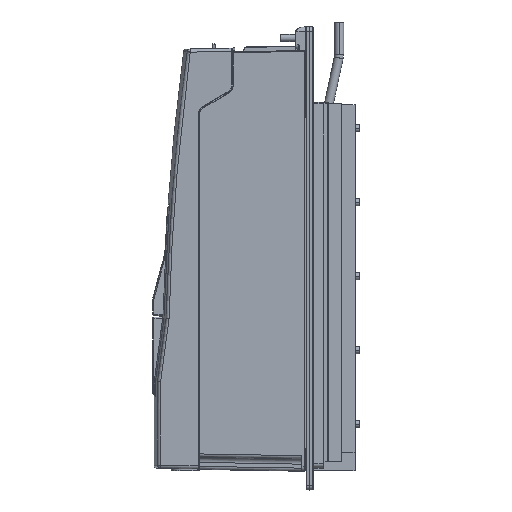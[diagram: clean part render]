
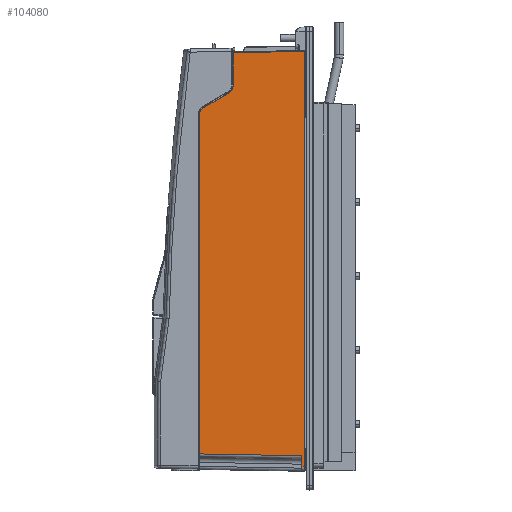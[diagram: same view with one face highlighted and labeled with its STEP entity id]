
A CAD part, left-side view. The second image highlights one B-rep face of the part: STEP entity #104080.
In plain terms, the highlighted planar face has unit normal (-1, 0.018, 0) as drawn and (1, 0.018, 0) by its records, which use the part's own axes.
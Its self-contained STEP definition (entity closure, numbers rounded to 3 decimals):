
#266 = FACE_OUTER_BOUND ( 'NONE', #105729, .T. ) ;
#672 = EDGE_CURVE ( 'NONE', #77806, #105797, #45312, .T. ) ;
#1778 = EDGE_CURVE ( 'NONE', #25256, #24570, #74881, .T. ) ;
#3639 = VECTOR ( 'NONE', #81222, 1000. ) ;
#4059 = CARTESIAN_POINT ( 'NONE',  ( 123.269, 1.704, 465.997 ) ) ;
#4807 = CARTESIAN_POINT ( 'NONE',  ( 121.801, 83.67, 44.693 ) ) ;
#5269 = VERTEX_POINT ( 'NONE', #71429 ) ;
#5949 = LINE ( 'NONE', #29848, #102363 ) ;
#7740 = EDGE_CURVE ( 'NONE', #77806, #5269, #32954, .T. ) ;
#9695 = CARTESIAN_POINT ( 'NONE',  ( 123.21, 5.009, 454.037 ) ) ;
#9732 = ORIENTED_EDGE ( 'NONE', *, *, #106895, .T. ) ;
#9827 = VECTOR ( 'NONE', #74680, 1000. ) ;
#10358 = CARTESIAN_POINT ( 'NONE',  ( 121.154, 119.804, 71.213 ) ) ;
#10678 = VERTEX_POINT ( 'NONE', #74584 ) ;
#14508 = CARTESIAN_POINT ( 'NONE',  ( 120.989, 129.004, 1.902 ) ) ;
#14985 = DIRECTION ( 'NONE',  ( -1., -0.018, 0. ) ) ;
#16049 = CARTESIAN_POINT ( 'NONE',  ( 121.15, 120., 471. ) ) ;
#16492 = CARTESIAN_POINT ( 'NONE',  ( 121.186, 118.01, 64.519 ) ) ;
#17292 = CARTESIAN_POINT ( 'NONE',  ( 123.214, 4.804, 454.869 ) ) ;
#17827 = CARTESIAN_POINT ( 'NONE',  ( 123.209, 5.102, 453.767 ) ) ;
#18802 = ORIENTED_EDGE ( 'NONE', *, *, #39457, .F. ) ;
#20238 = ORIENTED_EDGE ( 'NONE', *, *, #81950, .T. ) ;
#21721 = ORIENTED_EDGE ( 'NONE', *, *, #43487, .T. ) ;
#22032 = CARTESIAN_POINT ( 'NONE',  ( 123.214, 4.804, 471. ) ) ;
#24185 = LINE ( 'NONE', #74137, #9827 ) ;
#24570 = VERTEX_POINT ( 'NONE', #36343 ) ;
#25256 = VERTEX_POINT ( 'NONE', #102866 ) ;
#26134 = ORIENTED_EDGE ( 'NONE', *, *, #1778, .T. ) ;
#26754 = ORIENTED_EDGE ( 'NONE', *, *, #7740, .T. ) ;
#26773 = EDGE_CURVE ( 'NONE', #81136, #41788, #96422, .T. ) ;
#28516 = CARTESIAN_POINT ( 'NONE',  ( 121.241, 114.901, 62.724 ) ) ;
#28725 = CARTESIAN_POINT ( 'NONE',  ( 121.834, 81.804, 41.46 ) ) ;
#29848 = CARTESIAN_POINT ( 'NONE',  ( 123.275, 1.413, 466.002 ) ) ;
#30159 = VERTEX_POINT ( 'NONE', #4059 ) ;
#30261 = LINE ( 'NONE', #14508, #56188 ) ;
#31059 = AXIS2_PLACEMENT_3D ( 'NONE', #16049, #14985, #74690 ) ;
#32940 = DIRECTION ( 'NONE',  ( 0.018, -1., 0.017 ) ) ;
#32954 =( BOUNDED_CURVE ( )  B_SPLINE_CURVE ( 3, ( #95539, #28725, #4807, #54792 ),
 .UNSPECIFIED., .F., .F. ) 
 B_SPLINE_CURVE_WITH_KNOTS ( ( 4, 4 ),
 ( 0., 1.047 ),
 .UNSPECIFIED. ) 
 CURVE ( )  GEOMETRIC_REPRESENTATION_ITEM ( )  RATIONAL_B_SPLINE_CURVE ( ( 1., 0.911, 0.911, 1. ) ) 
 REPRESENTATION_ITEM ( '' )  );
#33850 = CARTESIAN_POINT ( 'NONE',  ( 121.154, 119.804, 71.213 ) ) ;
#36343 = CARTESIAN_POINT ( 'NONE',  ( 123.214, 4.804, 455.156 ) ) ;
#37474 = EDGE_CURVE ( 'NONE', #57533, #102300, #30261, .T. ) ;
#37566 = VECTOR ( 'NONE', #96621, 1000. ) ;
#38489 = DIRECTION ( 'NONE',  ( 0., 0., 1. ) ) ;
#39457 = EDGE_CURVE ( 'NONE', #105797, #102300, #79240, .T. ) ;
#41788 = VERTEX_POINT ( 'NONE', #10358 ) ;
#43314 = VECTOR ( 'NONE', #38489, 1000. ) ;
#43487 = EDGE_CURVE ( 'NONE', #53230, #25256, #100811, .T. ) ;
#45053 = CARTESIAN_POINT ( 'NONE',  ( 121.84, 81.5, 37.726 ) ) ;
#45312 = LINE ( 'NONE', #49876, #52104 ) ;
#45458 = EDGE_CURVE ( 'NONE', #10678, #30159, #5949, .T. ) ;
#46677 = CARTESIAN_POINT ( 'NONE',  ( 121.834, 81.804, 37.726 ) ) ;
#49628 = CARTESIAN_POINT ( 'NONE',  ( 121.154, 119.804, 67.626 ) ) ;
#49876 = CARTESIAN_POINT ( 'NONE',  ( 121.15, 120., 37.726 ) ) ;
#52104 = VECTOR ( 'NONE', #82994, 1000. ) ;
#53065 = CARTESIAN_POINT ( 'NONE',  ( 123.269, 1.704, -0.542 ) ) ;
#53230 = VERTEX_POINT ( 'NONE', #102718 ) ;
#54175 = DIRECTION ( 'NONE',  ( -0.018, 1., 0.019 ) ) ;
#54749 = ORIENTED_EDGE ( 'NONE', *, *, #672, .F. ) ;
#54792 = CARTESIAN_POINT ( 'NONE',  ( 121.743, 86.904, 46.56 ) ) ;
#56188 = VECTOR ( 'NONE', #54175, 1000. ) ;
#57533 = VERTEX_POINT ( 'NONE', #53065 ) ;
#57647 = CARTESIAN_POINT ( 'NONE',  ( 121.241, 114.904, 62.726 ) ) ;
#58592 = CARTESIAN_POINT ( 'NONE',  ( 123.207, 5.196, 453.497 ) ) ;
#59650 = CARTESIAN_POINT ( 'NONE',  ( 123.214, 4.804, 455.156 ) ) ;
#60035 = ORIENTED_EDGE ( 'NONE', *, *, #37474, .T. ) ;
#65611 = ORIENTED_EDGE ( 'NONE', *, *, #73854, .T. ) ;
#66527 = EDGE_CURVE ( 'NONE', #30159, #57533, #24185, .T. ) ;
#67781 = CARTESIAN_POINT ( 'NONE',  ( 123.213, 4.86, 454.589 ) ) ;
#69770 = LINE ( 'NONE', #28516, #69984 ) ;
#69984 = VECTOR ( 'NONE', #86640, 1000. ) ;
#71429 = CARTESIAN_POINT ( 'NONE',  ( 121.743, 86.904, 46.56 ) ) ;
#73854 = EDGE_CURVE ( 'NONE', #24570, #10678, #98588, .T. ) ;
#74137 = CARTESIAN_POINT ( 'NONE',  ( 123.269, 1.704, 471. ) ) ;
#74584 = CARTESIAN_POINT ( 'NONE',  ( 123.214, 4.804, 465.943 ) ) ;
#74680 = DIRECTION ( 'NONE',  ( 0., 0., -1. ) ) ;
#74690 = DIRECTION ( 'NONE',  ( 0.018, -1., 0. ) ) ;
#74881 = B_SPLINE_CURVE_WITH_KNOTS ( 'NONE', 3,
 ( #58592, #17827, #9695, #67781, #17292, #59650 ),
 .UNSPECIFIED., .F., .F.,
 ( 4, 2, 4 ),
 ( 0., 0.001, 0.002 ),
 .UNSPECIFIED. ) ;
#76175 = VECTOR ( 'NONE', #32940, 1000. ) ;
#77806 = VERTEX_POINT ( 'NONE', #46677 ) ;
#79240 = LINE ( 'NONE', #96078, #37566 ) ;
#81136 = VERTEX_POINT ( 'NONE', #57647 ) ;
#81222 = DIRECTION ( 'NONE',  ( 0., 0., 1. ) ) ;
#81950 = EDGE_CURVE ( 'NONE', #5269, #81136, #69770, .T. ) ;
#82994 = DIRECTION ( 'NONE',  ( 0.018, -1., 0. ) ) ;
#86640 = DIRECTION ( 'NONE',  ( -0.016, 0.866, 0.5 ) ) ;
#88236 = ORIENTED_EDGE ( 'NONE', *, *, #26773, .T. ) ;
#90470 = PLANE ( 'NONE',  #31059 ) ;
#92133 = ORIENTED_EDGE ( 'NONE', *, *, #66527, .T. ) ;
#92516 = CARTESIAN_POINT ( 'NONE',  ( 121.241, 114.904, 62.726 ) ) ;
#94901 = CARTESIAN_POINT ( 'NONE',  ( 121.84, 81.5, 0.99 ) ) ;
#95539 = CARTESIAN_POINT ( 'NONE',  ( 121.834, 81.804, 37.726 ) ) ;
#96078 = CARTESIAN_POINT ( 'NONE',  ( 121.84, 81.5, 471. ) ) ;
#96422 =( BOUNDED_CURVE ( )  B_SPLINE_CURVE ( 3, ( #92516, #16492, #49628, #33850 ),
 .UNSPECIFIED., .F., .F. ) 
 B_SPLINE_CURVE_WITH_KNOTS ( ( 4, 4 ),
 ( 2.094, 3.142 ),
 .UNSPECIFIED. ) 
 CURVE ( )  GEOMETRIC_REPRESENTATION_ITEM ( )  RATIONAL_B_SPLINE_CURVE ( ( 1., 0.911, 0.911, 1. ) ) 
 REPRESENTATION_ITEM ( '' )  );
#96621 = DIRECTION ( 'NONE',  ( 0., 0., -1. ) ) ;
#97130 = LINE ( 'NONE', #105810, #43314 ) ;
#98588 = LINE ( 'NONE', #22032, #3639 ) ;
#98836 = ORIENTED_EDGE ( 'NONE', *, *, #45458, .T. ) ;
#100274 = CARTESIAN_POINT ( 'NONE',  ( 123.212, 4.939, 453.502 ) ) ;
#100811 = LINE ( 'NONE', #100274, #76175 ) ;
#102300 = VERTEX_POINT ( 'NONE', #94901 ) ;
#102363 = VECTOR ( 'NONE', #104254, 1000. ) ;
#102718 = CARTESIAN_POINT ( 'NONE',  ( 121.154, 119.804, 451.497 ) ) ;
#102866 = CARTESIAN_POINT ( 'NONE',  ( 123.207, 5.196, 453.497 ) ) ;
#104080 = ADVANCED_FACE ( 'NONE', ( #266 ), #90470, .F. ) ;
#104254 = DIRECTION ( 'NONE',  ( 0.018, -1., 0.017 ) ) ;
#105729 = EDGE_LOOP ( 'NONE', ( #54749, #26754, #20238, #88236, #9732, #21721, #26134, #65611, #98836, #92133, #60035, #18802 ) ) ;
#105797 = VERTEX_POINT ( 'NONE', #45053 ) ;
#105810 = CARTESIAN_POINT ( 'NONE',  ( 121.154, 119.804, 471. ) ) ;
#106895 = EDGE_CURVE ( 'NONE', #41788, #53230, #97130, .T. ) ;
